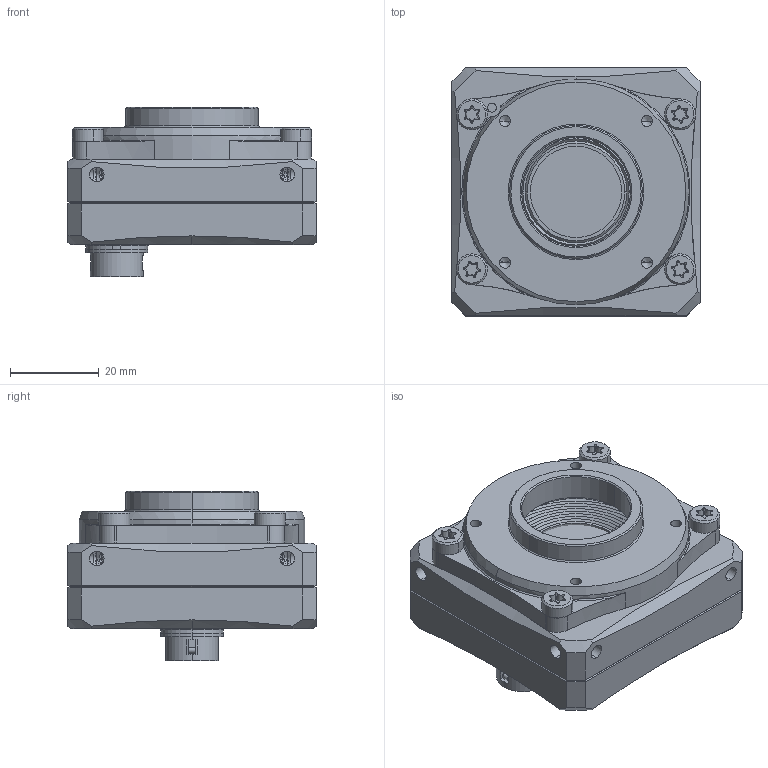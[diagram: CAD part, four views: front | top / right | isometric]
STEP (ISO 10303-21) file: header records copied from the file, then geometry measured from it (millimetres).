
FILE_DESCRIPTION (( 'STEP AP214' ), '1' );
FILE_NAME ('Celera_one_C-mount.STEP', '2020-07-14T08:34:33', ( '' ), ( '' ), 'SwSTEP 2.0', 'SolidWorks 2019', '' );
FILE_SCHEMA (( 'AUTOMOTIVE_DESIGN' ));
Length unit declared in the file: millimetre
Products named in the file (10): Vite_M4_M4 x 08; Usb; Vite_M2; C-Mount_REV_04; I-O; Rear_mec_shell_single_usb; Light_pipe; Filtro; Celera_one_C-mount; Front_Mec_shell
Assembly tree (15 placements, depth 2):
  Celera_one_C-mount
    Front_Mec_shell
    Rear_mec_shell_single_usb
    Usb
    I-O
    Filtro
    C-Mount_REV_04
    Vite_M2  x4
    Vite_M4_M4 x 08  x4
    Light_pipe
Bounding box: 56 x 56 x 38.33 mm (x, y, z)
Volume: 66791.9 mm3; surface area: 30414.9 mm2
Topology: 17 solids, 17 shells, 1296 faces, 3154 edges, 1934 vertices
Faces by surface type: plane 532, cylinder 388, cone 330, torus 36, bspline 10
Entity records: 39869 total; most frequent: CARTESIAN_POINT 7442, DIRECTION 5886, ORIENTED_EDGE 5486, EDGE_CURVE 2743, AXIS2_PLACEMENT_3D 2173, VERTEX_POINT 1694, LINE 1540, VECTOR 1540
